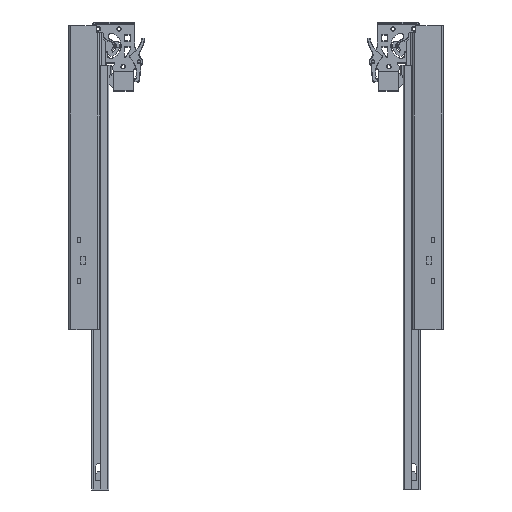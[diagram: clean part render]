
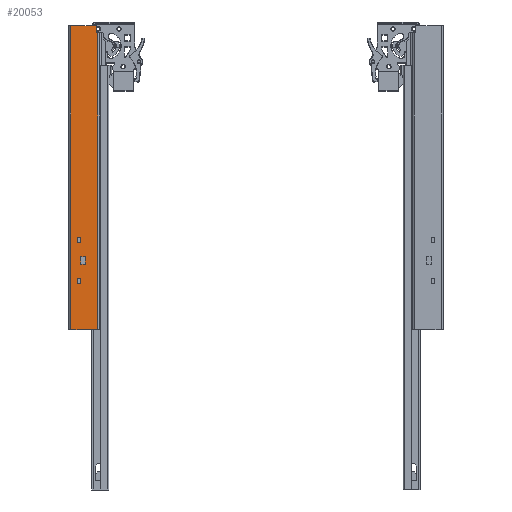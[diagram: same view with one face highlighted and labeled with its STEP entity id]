
A CAD part, front view. The second image highlights one B-rep face of the part: STEP entity #20053.
In plain terms, the highlighted planar face has unit normal (0, -1, 0).
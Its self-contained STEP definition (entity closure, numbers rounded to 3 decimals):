
#621=FACE_BOUND('',#4012,.T.);
#622=FACE_BOUND('',#4013,.T.);
#623=FACE_BOUND('',#4014,.T.);
#1315=CIRCLE('',#21525,0.5);
#1317=CIRCLE('',#21529,0.5);
#2755=FACE_OUTER_BOUND('',#4011,.T.);
#4011=EDGE_LOOP('',(#13187,#13188,#13189,#13190,#13191,#13192,#13193,#13194));
#4012=EDGE_LOOP('',(#13195,#13196,#13197,#13198));
#4013=EDGE_LOOP('',(#13199,#13200,#13201,#13202));
#4014=EDGE_LOOP('',(#13203,#13204,#13205,#13206));
#5275=LINE('',#30392,#6663);
#5279=LINE('',#30400,#6667);
#5282=LINE('',#30406,#6670);
#5285=LINE('',#30411,#6673);
#5287=LINE('',#30417,#6675);
#5291=LINE('',#30425,#6679);
#5294=LINE('',#30431,#6682);
#5297=LINE('',#30436,#6685);
#5299=LINE('',#30442,#6687);
#5303=LINE('',#30450,#6691);
#5306=LINE('',#30456,#6694);
#5309=LINE('',#30461,#6697);
#5380=LINE('',#30779,#6768);
#5386=LINE('',#30798,#6774);
#5410=LINE('',#30878,#6798);
#5442=LINE('',#30963,#6830);
#5443=LINE('',#30967,#6831);
#5444=LINE('',#30968,#6832);
#6663=VECTOR('',#23911,10.);
#6667=VECTOR('',#23917,10.);
#6670=VECTOR('',#23922,10.);
#6673=VECTOR('',#23927,10.);
#6675=VECTOR('',#23933,10.);
#6679=VECTOR('',#23939,10.);
#6682=VECTOR('',#23944,10.);
#6685=VECTOR('',#23949,10.);
#6687=VECTOR('',#23955,10.);
#6691=VECTOR('',#23961,10.);
#6694=VECTOR('',#23966,10.);
#6697=VECTOR('',#23971,10.);
#6768=VECTOR('',#24336,10.);
#6774=VECTOR('',#24354,10.);
#6798=VECTOR('',#24424,10.);
#6830=VECTOR('',#24518,10.);
#6831=VECTOR('',#24523,10.);
#6832=VECTOR('',#24524,10.);
#8051=VERTEX_POINT('',#30390);
#8052=VERTEX_POINT('',#30391);
#8055=VERTEX_POINT('',#30399);
#8057=VERTEX_POINT('',#30405);
#8059=VERTEX_POINT('',#30415);
#8060=VERTEX_POINT('',#30416);
#8063=VERTEX_POINT('',#30424);
#8065=VERTEX_POINT('',#30430);
#8067=VERTEX_POINT('',#30440);
#8068=VERTEX_POINT('',#30441);
#8071=VERTEX_POINT('',#30449);
#8073=VERTEX_POINT('',#30455);
#8173=VERTEX_POINT('',#30776);
#8174=VERTEX_POINT('',#30778);
#8179=VERTEX_POINT('',#30790);
#8181=VERTEX_POINT('',#30796);
#8183=VERTEX_POINT('',#30802);
#8214=VERTEX_POINT('',#30876);
#8236=VERTEX_POINT('',#30962);
#8237=VERTEX_POINT('',#30966);
#9777=EDGE_CURVE('',#8051,#8052,#5275,.T.);
#9781=EDGE_CURVE('',#8052,#8055,#5279,.T.);
#9784=EDGE_CURVE('',#8055,#8057,#5282,.T.);
#9787=EDGE_CURVE('',#8057,#8051,#5285,.T.);
#9789=EDGE_CURVE('',#8059,#8060,#5287,.T.);
#9793=EDGE_CURVE('',#8060,#8063,#5291,.T.);
#9796=EDGE_CURVE('',#8063,#8065,#5294,.T.);
#9799=EDGE_CURVE('',#8065,#8059,#5297,.T.);
#9801=EDGE_CURVE('',#8067,#8068,#5299,.T.);
#9805=EDGE_CURVE('',#8068,#8071,#5303,.T.);
#9808=EDGE_CURVE('',#8071,#8073,#5306,.T.);
#9811=EDGE_CURVE('',#8073,#8067,#5309,.T.);
#9969=EDGE_CURVE('',#8174,#8173,#5380,.T.);
#9976=EDGE_CURVE('',#8179,#8173,#1315,.T.);
#9979=EDGE_CURVE('',#8179,#8181,#5386,.T.);
#9982=EDGE_CURVE('',#8183,#8181,#1317,.T.);
#10019=EDGE_CURVE('',#8214,#8183,#5410,.T.);
#10061=EDGE_CURVE('',#8174,#8236,#5442,.T.);
#10063=EDGE_CURVE('',#8214,#8237,#5443,.T.);
#10064=EDGE_CURVE('',#8236,#8237,#5444,.T.);
#13187=ORIENTED_EDGE('',*,*,#9982,.F.);
#13188=ORIENTED_EDGE('',*,*,#10019,.F.);
#13189=ORIENTED_EDGE('',*,*,#10063,.T.);
#13190=ORIENTED_EDGE('',*,*,#10064,.F.);
#13191=ORIENTED_EDGE('',*,*,#10061,.F.);
#13192=ORIENTED_EDGE('',*,*,#9969,.T.);
#13193=ORIENTED_EDGE('',*,*,#9976,.F.);
#13194=ORIENTED_EDGE('',*,*,#9979,.T.);
#13195=ORIENTED_EDGE('',*,*,#9777,.T.);
#13196=ORIENTED_EDGE('',*,*,#9781,.T.);
#13197=ORIENTED_EDGE('',*,*,#9784,.T.);
#13198=ORIENTED_EDGE('',*,*,#9787,.T.);
#13199=ORIENTED_EDGE('',*,*,#9789,.T.);
#13200=ORIENTED_EDGE('',*,*,#9793,.T.);
#13201=ORIENTED_EDGE('',*,*,#9796,.T.);
#13202=ORIENTED_EDGE('',*,*,#9799,.T.);
#13203=ORIENTED_EDGE('',*,*,#9801,.T.);
#13204=ORIENTED_EDGE('',*,*,#9805,.T.);
#13205=ORIENTED_EDGE('',*,*,#9808,.T.);
#13206=ORIENTED_EDGE('',*,*,#9811,.T.);
#18571=PLANE('',#21582);
#20053=ADVANCED_FACE('',(#2755,#621,#622,#623),#18571,.T.);
#21525=AXIS2_PLACEMENT_3D('',#30792,#24348,#24349);
#21529=AXIS2_PLACEMENT_3D('',#30804,#24360,#24361);
#21582=AXIS2_PLACEMENT_3D('',#30965,#24521,#24522);
#23911=DIRECTION('',(0.,0.,1.));
#23917=DIRECTION('',(1.,0.,0.));
#23922=DIRECTION('',(0.,0.,-1.));
#23927=DIRECTION('',(-1.,0.,0.));
#23933=DIRECTION('',(0.,0.,1.));
#23939=DIRECTION('',(1.,0.,0.));
#23944=DIRECTION('',(0.,0.,-1.));
#23949=DIRECTION('',(-1.,0.,0.));
#23955=DIRECTION('',(0.,0.,1.));
#23961=DIRECTION('',(1.,0.,0.));
#23966=DIRECTION('',(0.,0.,-1.));
#23971=DIRECTION('',(-1.,0.,0.));
#24336=DIRECTION('',(-1.,0.,0.));
#24348=DIRECTION('center_axis',(0.,-1.,0.));
#24349=DIRECTION('ref_axis',(-0.707,0.,-0.707));
#24354=DIRECTION('',(0.,0.,1.));
#24360=DIRECTION('center_axis',(0.,1.,0.));
#24361=DIRECTION('ref_axis',(0.707,0.,0.707));
#24424=DIRECTION('',(1.,0.,0.));
#24518=DIRECTION('',(0.,0.,-1.));
#24521=DIRECTION('center_axis',(0.,-1.,0.));
#24522=DIRECTION('ref_axis',(-1.,0.,0.));
#24523=DIRECTION('',(0.,0.,-1.));
#24524=DIRECTION('',(-1.,0.,0.));
#30390=CARTESIAN_POINT('',(9.,0.,-232.));
#30391=CARTESIAN_POINT('',(9.,0.,-226.));
#30392=CARTESIAN_POINT('',(9.,0.,-113.));
#30399=CARTESIAN_POINT('',(12.5,0.,-226.));
#30400=CARTESIAN_POINT('',(21.5,0.,-226.));
#30405=CARTESIAN_POINT('',(12.5,0.,-232.));
#30406=CARTESIAN_POINT('',(12.5,0.,-116.));
#30411=CARTESIAN_POINT('',(19.75,0.,-232.));
#30415=CARTESIAN_POINT('',(9.,0.,-276.));
#30416=CARTESIAN_POINT('',(9.,0.,-270.));
#30417=CARTESIAN_POINT('',(9.,0.,-135.));
#30424=CARTESIAN_POINT('',(12.5,0.,-270.));
#30425=CARTESIAN_POINT('',(21.5,0.,-270.));
#30430=CARTESIAN_POINT('',(12.5,0.,-276.));
#30431=CARTESIAN_POINT('',(12.5,0.,-138.));
#30436=CARTESIAN_POINT('',(19.75,0.,-276.));
#30440=CARTESIAN_POINT('',(12.5,0.,-255.));
#30441=CARTESIAN_POINT('',(12.5,0.,-247.));
#30442=CARTESIAN_POINT('',(12.5,0.,-123.5));
#30449=CARTESIAN_POINT('',(17.5,0.,-247.));
#30450=CARTESIAN_POINT('',(24.,0.,-247.));
#30455=CARTESIAN_POINT('',(17.5,0.,-255.));
#30456=CARTESIAN_POINT('',(17.5,0.,-127.5));
#30461=CARTESIAN_POINT('',(21.5,0.,-255.));
#30776=CARTESIAN_POINT('',(30.,0.,-7.5));
#30778=CARTESIAN_POINT('',(30.5,0.,-7.5));
#30779=CARTESIAN_POINT('',(33.5,0.,-7.5));
#30790=CARTESIAN_POINT('',(29.5,0.,-7.));
#30792=CARTESIAN_POINT('Origin',(30.,0.,-7.));
#30796=CARTESIAN_POINT('',(29.5,0.,-0.5));
#30798=CARTESIAN_POINT('',(29.5,0.,-3.75));
#30802=CARTESIAN_POINT('',(29.,0.,0.));
#30804=CARTESIAN_POINT('Origin',(29.,0.,
-0.5));
#30876=CARTESIAN_POINT('',(2.,0.,0.));
#30878=CARTESIAN_POINT('',(2.,0.,0.));
#30962=CARTESIAN_POINT('',(30.5,0.,-325.));
#30963=CARTESIAN_POINT('',(30.5,0.,0.));
#30965=CARTESIAN_POINT('Origin',(30.5,0.,0.));
#30966=CARTESIAN_POINT('',(2.,0.,-325.));
#30967=CARTESIAN_POINT('',(2.,0.,0.));
#30968=CARTESIAN_POINT('',(2.,0.,-325.));
